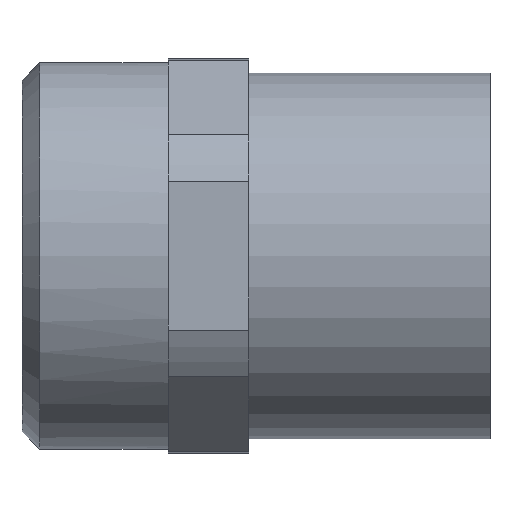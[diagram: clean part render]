
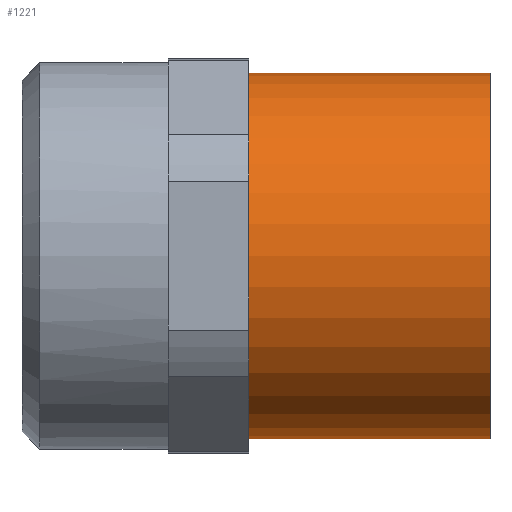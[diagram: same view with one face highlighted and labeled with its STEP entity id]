
A CAD part, top view. The second image highlights one B-rep face of the part: STEP entity #1221.
In plain terms, the highlighted cylindrical face has radius 12.5 mm (diameter 25 mm), a partial arc.
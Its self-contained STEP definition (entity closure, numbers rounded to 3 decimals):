
#353=CARTESIAN_POINT('',(-49.383,32.,0.0));
#354=VERTEX_POINT('',#353);
#355=CARTESIAN_POINT('',(-49.383,15.5,0.0));
#356=VERTEX_POINT('',#355);
#357=CARTESIAN_POINT('',(-49.383,32.,0.0));
#358=DIRECTION('',(0.0,-1.0,0.0));
#359=VECTOR('',#358,16.5);
#360=LINE('',#357,#359);
#361=EDGE_CURVE('',#354,#356,#360,.T.);
#363=CARTESIAN_POINT('',(-24.383,32.0,0.));
#364=VERTEX_POINT('',#363);
#372=CARTESIAN_POINT('',(-24.383,15.5,0.));
#373=VERTEX_POINT('',#372);
#374=CARTESIAN_POINT('',(-24.383,32.0,0.));
#375=DIRECTION('',(0.0,-1.0,0.0));
#376=VECTOR('',#375,16.5);
#377=LINE('',#374,#376);
#378=EDGE_CURVE('',#364,#373,#377,.T.);
#432=CARTESIAN_POINT('',(-47.708,15.5,6.25));
#433=VERTEX_POINT('',#432);
#635=CARTESIAN_POINT('',(-26.058,15.5,6.25));
#636=VERTEX_POINT('',#635);
#796=CARTESIAN_POINT('',(-36.883,15.5,12.5));
#797=VERTEX_POINT('',#796);
#804=CARTESIAN_POINT('',(-36.883,15.5,0.0));
#805=DIRECTION('',(0.0,1.0,0.0));
#806=DIRECTION('',(-1.0,0.0,0.0));
#807=AXIS2_PLACEMENT_3D('',#804,#805,#806);
#808=CIRCLE('',#807,12.5);
#809=EDGE_CURVE('',#433,#797,#808,.T.);
#820=CARTESIAN_POINT('',(-36.883,15.5,0.0));
#821=DIRECTION('',(0.0,1.0,0.0));
#822=DIRECTION('',(-1.0,0.0,0.0));
#823=AXIS2_PLACEMENT_3D('',#820,#821,#822);
#824=CIRCLE('',#823,12.5);
#825=EDGE_CURVE('',#356,#433,#824,.T.);
#890=CARTESIAN_POINT('',(-36.883,15.5,0.0));
#891=DIRECTION('',(0.0,1.0,0.0));
#892=DIRECTION('',(-1.0,0.0,0.0));
#893=AXIS2_PLACEMENT_3D('',#890,#891,#892);
#894=CIRCLE('',#893,12.5);
#895=EDGE_CURVE('',#636,#373,#894,.T.);
#1189=CARTESIAN_POINT('',(-36.883,15.5,0.0));
#1190=DIRECTION('',(0.0,1.0,0.0));
#1191=DIRECTION('',(-1.0,0.0,0.0));
#1192=AXIS2_PLACEMENT_3D('',#1189,#1190,#1191);
#1193=CIRCLE('',#1192,12.5);
#1194=EDGE_CURVE('',#797,#636,#1193,.T.);
#1201=CARTESIAN_POINT('',(-36.883,23.75,0.0));
#1202=DIRECTION('',(0.,1.0,0.0));
#1203=DIRECTION('',(-1.0,0.0,0.0));
#1204=AXIS2_PLACEMENT_3D('',#1201,#1202,#1203);
#1205=CYLINDRICAL_SURFACE('',#1204,12.5);
#1206=ORIENTED_EDGE('',*,*,#361,.T.);
#1207=ORIENTED_EDGE('',*,*,#825,.T.);
#1208=ORIENTED_EDGE('',*,*,#809,.T.);
#1209=ORIENTED_EDGE('',*,*,#1194,.T.);
#1210=ORIENTED_EDGE('',*,*,#895,.T.);
#1211=ORIENTED_EDGE('',*,*,#378,.F.);
#1212=CARTESIAN_POINT('',(-36.883,32.0,0.0));
#1213=DIRECTION('',(0.0,1.0,0.0));
#1214=DIRECTION('',(-1.0,0.0,0.0));
#1215=AXIS2_PLACEMENT_3D('',#1212,#1213,#1214);
#1216=CIRCLE('',#1215,12.5);
#1217=EDGE_CURVE('',#354,#364,#1216,.T.);
#1218=ORIENTED_EDGE('',*,*,#1217,.F.);
#1219=EDGE_LOOP('',(#1206,#1207,#1208,#1209,#1210,#1211,#1218));
#1220=FACE_OUTER_BOUND('',#1219,.T.);
#1221=ADVANCED_FACE('',(#1220),#1205,.T.);
